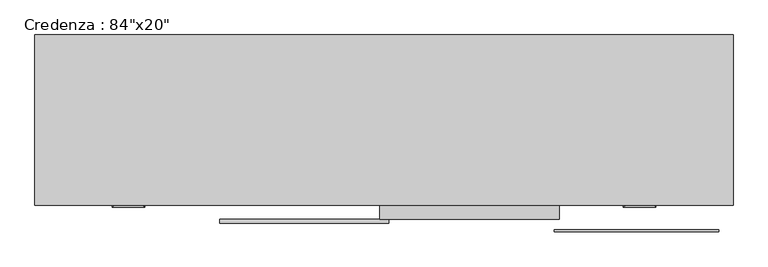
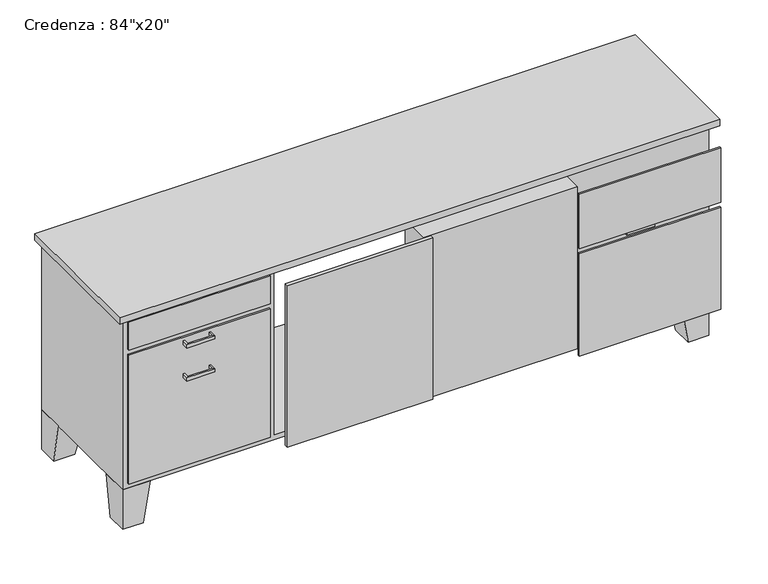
"""IFC4 building model written with IfcOpenShell, lengths in millimetres: furniture geometry."""

import ifcopenshell
import ifcopenshell.guid

model = None  # the IFC model being written
_history = None  # IfcOwnerHistory: only IFC2X3 demands one
_inside = {}  # id of a spatial element -> (the spatial element, [elements in it])
_under = {}  # id of a project, library or spatial element -> (it, [spatial elements below it])
_declared = {}  # id of a project -> (the project, [libraries it declares])
_typed = {}  # id of a type object -> (the type object, [elements of that type])
_made_of = {}  # id of a material, layer set ... -> (it, [elements and type objects made of it])


def new_model(schema):
    """Start an empty IFC model of exactly this schema.

    Asked for "IFC4X3", IfcOpenShell would pick the latest addendum, in which some entities
    have other attributes; the version numbers below select the first issue.
    IFC2X3 requires an IfcOwnerHistory on every rooted entity: one is made here for all.
    """
    global model, _history
    if schema == "IFC4X3":
        model = ifcopenshell.file(schema_version=(4, 3, 0, 0))
    else:
        model = ifcopenshell.file(schema=schema)
    _inside.clear()
    _under.clear()
    _declared.clear()
    _typed.clear()
    _made_of.clear()
    _history = None
    if model.schema == "IFC2X3":
        org = make("IfcOrganization", Name="unknown")
        user = make(
            "IfcPersonAndOrganization",
            ThePerson=make("IfcPerson", FamilyName="unknown"),
            TheOrganization=org,
        )
        app = make(
            "IfcApplication",
            ApplicationDeveloper=org,
            Version="unknown",
            ApplicationFullName="unknown",
            ApplicationIdentifier="unknown",
        )
        _history = make(
            "IfcOwnerHistory",
            OwningUser=user,
            OwningApplication=app,
            ChangeAction="ADDED",
            CreationDate=0,
        )
    return model


def make(cls, **values):
    """One entity of the class cls with the attributes given. An attribute that is None is left unset."""
    return model.create_entity(
        cls, **{name: value for name, value in values.items() if value is not None}
    )


def rooted(cls, **values):
    """An entity with a GlobalId (a new one), such as an element, a storey or a relation."""
    return make(cls, GlobalId=ifcopenshell.guid.new(), OwnerHistory=_history, **values)


def si_unit(unit_type, name, prefix=None):
    """IfcSIUnit, for example si_unit("LENGTHUNIT", "METRE", prefix="MILLI")."""
    return make("IfcSIUnit", UnitType=unit_type, Prefix=prefix, Name=name)


def assignment(units):
    """IfcUnitAssignment: the units of a project."""
    return None if units is None else make("IfcUnitAssignment", Units=units)


def point(xyz):
    """IfcCartesianPoint."""
    return None if xyz is None else make("IfcCartesianPoint", Coordinates=xyz)


def direction(xyz):
    """IfcDirection."""
    return None if xyz is None else make("IfcDirection", DirectionRatios=xyz)


def frame(location, z_axis=None, x_axis=None):
    """IfcAxis2Placement3D, a coordinate frame: its origin and axes. An axis left out is left unset."""
    return make(
        "IfcAxis2Placement3D",
        Location=point(location),
        Axis=direction(z_axis),
        RefDirection=direction(x_axis),
    )


def origin():
    """The frame at (0, 0, 0) with its axes left unset."""
    return frame((0.0, 0.0, 0.0))


def place(relative_to, where):
    """IfcLocalPlacement: puts the frame where relative to a parent placement (None: the world)."""
    return make(
        "IfcLocalPlacement", PlacementRelTo=relative_to, RelativePlacement=where
    )


def context(
    kind, dimensions, precision=None, world=None, true_north=None, identifier=None
):
    """IfcGeometricRepresentationContext, for example the 3D "Model" context."""
    return make(
        "IfcGeometricRepresentationContext",
        ContextIdentifier=identifier,
        ContextType=kind,
        CoordinateSpaceDimension=dimensions,
        Precision=precision,
        WorldCoordinateSystem=world,
        TrueNorth=true_north,
    )


def project(units=None, contexts=None):
    """IfcProject with its units and contexts."""
    return rooted(
        "IfcProject",
        Name="project",
        RepresentationContexts=contexts,
        UnitsInContext=assignment(units),
    )


def spatial(cls, under=None, at=None, **own):
    """A site, building, storey or space (cls), placed at a placement, below another one or the project."""
    s = rooted(cls, ObjectPlacement=at, **own)
    if under is not None:
        _under.setdefault(under.id(), (under, []))[1].append(s)
    return s


def polyline(points):
    """IfcPolyline through the points."""
    return make("IfcPolyline", Points=[point(p) for p in points])


def outline(outer, holes=None, kind="AREA"):
    """IfcArbitraryClosedProfileDef: a profile drawn as a closed curve; with holes, ...WithVoids."""
    if holes is None:
        return make("IfcArbitraryClosedProfileDef", ProfileType=kind, OuterCurve=outer)
    return make(
        "IfcArbitraryProfileDefWithVoids",
        ProfileType=kind,
        OuterCurve=outer,
        InnerCurves=holes,
    )


def extrude(swept, where, along, depth):
    """IfcExtrudedAreaSolid: the profile swept, set in the frame where, extruded along a direction by depth."""
    return make(
        "IfcExtrudedAreaSolid",
        SweptArea=swept,
        Position=where,
        ExtrudedDirection=direction(along),
        Depth=depth,
    )


def faces_of(points, faces, orient=None, outer=None):
    """IfcFace entities. A face is a list of loops; a loop is a list of indices into points, from 0.

    orient and outer hold one flag for each loop. By default every Orientation is true, the
    first loop of a face is its IfcFaceOuterBound and the others are IfcFaceBound.
    """
    made = []
    for i, loops in enumerate(faces):
        bounds = []
        for j, loop in enumerate(loops):
            is_outer = j == 0 if outer is None else outer[i][j]
            bounds.append(
                make(
                    "IfcFaceOuterBound" if is_outer else "IfcFaceBound",
                    Bound=make("IfcPolyLoop", Polygon=[points[k] for k in loop]),
                    Orientation=True if orient is None else orient[i][j],
                )
            )
        made.append(make("IfcFace", Bounds=bounds))
    return made


def faceted_brep(points, faces, orient=None, outer=None, voids=None):
    """IfcFacetedBrep: a solid bounded by flat faces; with voids (closed shells), ...WithVoids."""
    shared = [point(p) for p in points]
    hull = make("IfcClosedShell", CfsFaces=faces_of(shared, faces, orient, outer))
    if voids is None:
        return make("IfcFacetedBrep", Outer=hull)
    return make(
        "IfcFacetedBrepWithVoids",
        Outer=hull,
        Voids=[
            make(cls, CfsFaces=faces_of(shared, fs, o, b)) for cls, fs, o, b in voids
        ],
    )


def shape(context_of_items, identifier, shape_type, items):
    """IfcShapeRepresentation: the items that make up one representation, for example the "Body"."""
    return make(
        "IfcShapeRepresentation",
        ContextOfItems=context_of_items,
        RepresentationIdentifier=identifier,
        RepresentationType=shape_type,
        Items=items,
    )


def source(mapping_origin, context_of_items, identifier, shape_type, items):
    """IfcRepresentationMap: a shape defined once, which mapped items show again and again."""
    return make(
        "IfcRepresentationMap",
        MappingOrigin=mapping_origin,
        MappedRepresentation=shape(context_of_items, identifier, shape_type, items),
    )


def transform(
    local_origin,
    x_axis=None,
    y_axis=None,
    z_axis=None,
    scale=None,
    scale2=None,
    scale3=None,
    uniform=True,
):
    """IfcCartesianTransformationOperator3D, or its non-uniform kind. x_axis, y_axis, z_axis: its Axis1, 2, 3."""
    if uniform:
        return make(
            "IfcCartesianTransformationOperator3D",
            Axis1=direction(x_axis),
            Axis2=direction(y_axis),
            LocalOrigin=point(local_origin),
            Scale=scale,
            Axis3=direction(z_axis),
        )
    return make(
        "IfcCartesianTransformationOperator3DnonUniform",
        Axis1=direction(x_axis),
        Axis2=direction(y_axis),
        LocalOrigin=point(local_origin),
        Scale=scale,
        Axis3=direction(z_axis),
        Scale2=scale2,
        Scale3=scale3,
    )


def mapped(mapping_source, mapping_target):
    """IfcMappedItem: shows the shape of a source again, moved by a transform."""
    return make(
        "IfcMappedItem", MappingSource=mapping_source, MappingTarget=mapping_target
    )


def made_of(thing, what):
    """Note that an element or type object is made of a material, layer set ...; save() writes the relation."""
    if what is not None:
        _made_of.setdefault(what.id(), (what, []))[1].append(thing)
    return thing


def element(
    cls,
    number,
    at=None,
    inside=None,
    cuts=None,
    type_object=None,
    material=None,
    context=None,
    identifier="Body",
    shape_type=None,
    held_by="IfcProductDefinitionShape",
    body=None,
    shapes=None,
    **own,
):
    """One element of the class cls, such as IfcWall. Its Tag is "e" and its number.

    at: its placement. inside: the storey or other place that contains it. cuts: it is an
    opening in that element (IfcRelVoidsElement). A single representation is given by context,
    identifier, shape_type and body (its items); several are given by shapes. held_by: the class
    of the entity that holds the representations. save() writes the other relations.
    """
    e = rooted(cls, Tag="e%d" % number, ObjectPlacement=at, **own)
    if body is not None:
        shapes = [shape(context, identifier, shape_type, body)]
    if shapes is not None:
        e.Representation = make(held_by, Representations=shapes)
    if inside is not None:
        _inside.setdefault(inside.id(), (inside, []))[1].append(e)
    if cuts is not None:
        rooted(
            "IfcRelVoidsElement", RelatingBuildingElement=cuts, RelatedOpeningElement=e
        )
    if type_object is not None:
        _typed.setdefault(type_object.id(), (type_object, []))[1].append(e)
    return made_of(e, material)


def aggregate(whole, parts):
    """IfcRelAggregates: a whole, such as a stair, and the parts it consists of."""
    return rooted("IfcRelAggregates", RelatingObject=whole, RelatedObjects=parts)


def save(model, path):
    """Write the relations noted so far, then the file.

    IfcRelAggregates (storeys below a building ...), IfcRelContainedInSpatialStructure (elements
    in a storey), IfcRelDefinesByType, IfcRelAssociatesMaterial and IfcRelDeclares: one each for
    every whole, place, type object, material and project.
    """
    for whole, parts in _under.values():
        aggregate(whole, parts)
    for where, things in _inside.values():
        rooted(
            "IfcRelContainedInSpatialStructure",
            RelatedElements=things,
            RelatingStructure=where,
        )
    for kind, things in _typed.values():
        rooted("IfcRelDefinesByType", RelatedObjects=things, RelatingType=kind)
    for what, things in _made_of.values():
        rooted("IfcRelAssociatesMaterial", RelatedObjects=things, RelatingMaterial=what)
    for by, libraries in _declared.values():
        rooted("IfcRelDeclares", RelatingContext=by, RelatedDefinitions=libraries)
    model.write(path)


def furniture_6dfb0ca2(model_context):
    return source(origin(), model_context, "Body", "SolidModel", [
        extrude(outline(polyline([(607.9023176, -318.0714583), (46.8442623, -318.0714583), (46.8442623, -203.7714583), (607.9023176, -203.7714583), (607.9023176, -318.0714583)])), frame((0.0, 0.0, 171.45), z_axis=(0.0, 0.0, 1.0), x_axis=(1.0, 0.0, 0.0)), (0.0, 0.0, 1.0), 622.3),
        extrude(outline(polyline([(73.6254475, -330.7714583), (-454.8057377, -330.7714583), (-454.8057377, -318.0714583), (73.6254475, -318.0714583), (73.6254475, -330.7714583)])), frame((0.0, 0.0, 171.45), z_axis=(0.0, 0.0, 1.0), x_axis=(1.0, 0.0, 0.0)), (0.0, 0.0, 1.0), 622.3),
        faceted_brep([(1024.7442623, 258.5803279, 152.4), (1024.7442623, 156.9803279, 152.4), (1126.3442623, 156.9803279, 152.4), (1126.3442623, 258.5803279, 152.4), (1050.1442623, 258.5803279, 0.0), (1126.3442623, 258.5803279, 0.0), (1126.3442623, 182.3803279, 0.0), (1050.1442623, 182.3803279, 0.0)], [[[0, 1, 2, 3]], [[4, 5, 6, 7]], [[4, 7, 1, 0]], [[7, 6, 2, 1]], [[6, 5, 3, 2]], [[5, 4, 0, 3]]]),
        extrude(outline(polyline([(1107.2942623, -357.3696721), (592.9442623, -357.3696721), (592.9442623, -351.0196721), (1107.2942623, -351.0196721), (1107.2942623, -357.3696721)])), frame((0.0, 0.0, 584.2), z_axis=(0.0, 0.0, 1.0), x_axis=(1.0, 0.0, 0.0)), (0.0, 0.0, 1.0), 209.55),
        extrude(outline(polyline([(1107.2942623, -357.3696721), (592.9442623, -357.3696721), (592.9442623, -351.0196721), (1107.2942623, -351.0196721), (1107.2942623, -357.3696721)])), frame((0.0, 0.0, 171.45), z_axis=(0.0, 0.0, 1.0), x_axis=(1.0, 0.0, 0.0)), (0.0, 0.0, 1.0), 393.7),
        extrude(outline(polyline([(-473.8557377, -255.7696721), (-988.2057377, -255.7696721), (-988.2057377, -249.4196721), (-473.8557377, -249.4196721), (-473.8557377, -255.7696721)])), frame((0.0, 0.0, 685.8), z_axis=(0.0, 0.0, 1.0), x_axis=(1.0, 0.0, 0.0)), (0.0, 0.0, 1.0), 107.95),
        extrude(outline(polyline([(-473.8557377, -255.7696721), (-988.2057377, -255.7696721), (-988.2057377, -249.4196721), (-473.8557377, -249.4196721), (-473.8557377, -255.7696721)])), frame((0.0, 0.0, 171.45), z_axis=(0.0, 0.0, 1.0), x_axis=(1.0, 0.0, 0.0)), (0.0, 0.0, 1.0), 495.3),
        faceted_brep([(-905.6557377, -249.4196721, 152.4), (-905.6557377, -147.8196721, 152.4), (-1007.2557377, -147.8196721, 152.4), (-1007.2557377, -249.4196721, 152.4), (-931.0557377, -249.4196721, 0.0), (-1007.2557377, -249.4196721, 0.0), (-1007.2557377, -173.2196721, 0.0), (-931.0557377, -173.2196721, 0.0)], [[[0, 1, 2, 3]], [[4, 5, 6, 7]], [[4, 7, 1, 0]], [[7, 6, 2, 1]], [[6, 5, 3, 2]], [[5, 4, 0, 3]]]),
        faceted_brep([(-905.6557377, 258.5803279, 152.4), (-1007.2557377, 258.5803279, 152.4), (-1007.2557377, 156.9803279, 152.4), (-905.6557377, 156.9803279, 152.4), (-931.0557377, 258.5803279, 0.0), (-931.0557377, 182.3803279, 0.0), (-1007.2557377, 182.3803279, 0.0), (-1007.2557377, 258.5803279, 0.0)], [[[0, 1, 2, 3]], [[4, 5, 6, 7]], [[4, 7, 1, 0]], [[7, 6, 2, 1]], [[6, 5, 3, 2]], [[5, 4, 0, 3]]]),
        faceted_brep([(1024.7442623, -249.4196721, 152.4), (1126.3442623, -249.4196721, 152.4), (1126.3442623, -147.8196721, 152.4), (1024.7442623, -147.8196721, 152.4), (1050.1442623, -249.4196721, 0.0), (1050.1442623, -173.2196721, 0.0), (1126.3442623, -173.2196721, 0.0), (1126.3442623, -249.4196721, 0.0)], [[[0, 1, 2, 3]], [[4, 5, 6, 7]], [[4, 7, 1, 0]], [[7, 6, 2, 1]], [[6, 5, 3, 2]], [[5, 4, 0, 3]]]),
        extrude(outline(polyline([(812.8, 1126.3442623), (812.8, -1007.2557377), (152.4, -1007.2557377), (152.4, 1126.3442623), (812.8, 1126.3442623)]), holes=[polyline([(793.75, -454.8057377), (793.75, 573.8942623), (171.45, 573.8942623), (171.45, -454.8057377), (793.75, -454.8057377)])]), frame((0.0, -249.4196721, 0.0), z_axis=(0.0, 1.0, 0.0), x_axis=(0.0, 0.0, 1.0)), (0.0, 0.0, 1.0), 508.0),
        extrude(outline(polyline([(1151.7442623, 258.5803279), (1151.7442623, -274.8196721), (-1032.6557377, -274.8196721), (-1032.6557377, 258.5803279), (1151.7442623, 258.5803279)])), frame((0.0, 0.0, 812.8), z_axis=(0.0, 0.0, 1.0), x_axis=(1.0, 0.0, 0.0)), (0.0, 0.0, 1.0), 25.4),
        faceted_brep([(-785.0057377, -255.7696721, 527.05), (-785.0057377, -255.7696721, 514.35), (-791.3557377, -255.7696721, 514.35), (-791.3557377, -255.7696721, 527.05), (-785.0057377, -274.8196721, 527.05), (-785.0057377, -274.8196721, 514.35), (-791.3557377, -281.1696721, 514.35), (-791.3557377, -281.1696721, 527.05), (-696.1057377, -274.8196721, 527.05), (-696.1057377, -274.8196721, 514.35), (-689.7557377, -281.1696721, 514.35), (-689.7557377, -281.1696721, 527.05), (-696.1057377, -255.7696721, 527.05), (-689.7557377, -255.7696721, 527.05), (-689.7557377, -255.7696721, 514.35), (-696.1057377, -255.7696721, 514.35)], [[[0, 1, 2, 3]], [[1, 0, 4, 5]], [[2, 1, 5, 6]], [[3, 2, 6, 7]], [[0, 3, 7, 4]], [[5, 4, 8, 9]], [[6, 5, 9, 10]], [[7, 6, 10, 11]], [[4, 7, 11, 8]], [[12, 13, 14, 15]], [[9, 8, 12, 15]], [[10, 9, 15, 14]], [[11, 10, 14, 13]], [[8, 11, 13, 12]]]),
        faceted_brep([(-785.0057377, -255.7696721, 654.05), (-785.0057377, -255.7696721, 641.35), (-791.3557377, -255.7696721, 641.35), (-791.3557377, -255.7696721, 654.05), (-785.0057377, -274.8196721, 654.05), (-785.0057377, -274.8196721, 641.35), (-791.3557377, -281.1696721, 641.35), (-791.3557377, -281.1696721, 654.05), (-696.1057377, -274.8196721, 654.05), (-696.1057377, -274.8196721, 641.35), (-689.7557377, -281.1696721, 641.35), (-689.7557377, -281.1696721, 654.05), (-696.1057377, -255.7696721, 654.05), (-689.7557377, -255.7696721, 654.05), (-689.7557377, -255.7696721, 641.35), (-696.1057377, -255.7696721, 641.35)], [[[0, 1, 2, 3]], [[1, 0, 4, 5]], [[2, 1, 5, 6]], [[3, 2, 6, 7]], [[0, 3, 7, 4]], [[5, 4, 8, 9]], [[6, 5, 9, 10]], [[7, 6, 10, 11]], [[4, 7, 11, 8]], [[12, 13, 14, 15]], [[9, 8, 12, 15]], [[10, 9, 15, 14]], [[11, 10, 14, 13]], [[8, 11, 13, 12]]]),
        faceted_brep([(815.1942623, -255.7696721, 654.1373112), (815.1942623, -255.7696721, 641.4373112), (808.8442623, -255.7696721, 641.4373112), (808.8442623, -255.7696721, 654.1373112), (815.1942623, -274.8196721, 654.1373112), (815.1942623, -274.8196721, 641.4373112), (808.8442623, -281.1696721, 641.4373112), (808.8442623, -281.1696721, 654.1373112), (904.0942623, -274.8196721, 654.1373112), (904.0942623, -274.8196721, 641.4373112), (910.4442623, -281.1696721, 641.4373112), (910.4442623, -281.1696721, 654.1373112), (904.0942623, -255.7696721, 654.1373112), (910.4442623, -255.7696721, 654.1373112), (910.4442623, -255.7696721, 641.4373112), (904.0942623, -255.7696721, 641.4373112)], [[[0, 1, 2, 3]], [[1, 0, 4, 5]], [[2, 1, 5, 6]], [[3, 2, 6, 7]], [[0, 3, 7, 4]], [[5, 4, 8, 9]], [[6, 5, 9, 10]], [[7, 6, 10, 11]], [[4, 7, 11, 8]], [[12, 13, 14, 15]], [[9, 8, 12, 15]], [[10, 9, 15, 14]], [[11, 10, 14, 13]], [[8, 11, 13, 12]]]),
        faceted_brep([(815.1942623, -255.7696721, 527.05), (815.1942623, -255.7696721, 514.35), (808.8442623, -255.7696721, 514.35), (808.8442623, -255.7696721, 527.05), (815.1942623, -274.8196721, 527.05), (815.1942623, -274.8196721, 514.35), (808.8442623, -281.1696721, 514.35), (808.8442623, -281.1696721, 527.05), (904.0942623, -274.8196721, 527.05), (904.0942623, -274.8196721, 514.35), (910.4442623, -281.1696721, 514.35), (910.4442623, -281.1696721, 527.05), (904.0942623, -255.7696721, 527.05), (910.4442623, -255.7696721, 527.05), (910.4442623, -255.7696721, 514.35), (904.0942623, -255.7696721, 514.35)], [[[0, 1, 2, 3]], [[1, 0, 4, 5]], [[2, 1, 5, 6]], [[3, 2, 6, 7]], [[0, 3, 7, 4]], [[5, 4, 8, 9]], [[6, 5, 9, 10]], [[7, 6, 10, 11]], [[4, 7, 11, 8]], [[12, 13, 14, 15]], [[9, 8, 12, 15]], [[10, 9, 15, 14]], [[11, 10, 14, 13]], [[8, 11, 13, 12]]]),
    ])


if __name__ == "__main__":
    model = new_model("IFC4")
    model_context = context("Model", 3, world=origin())
    ifc_project = project(units=[si_unit("LENGTHUNIT", "METRE", prefix="MILLI")], contexts=[model_context])
    site = spatial("IfcSite", under=ifc_project)
    building = spatial("IfcBuilding", under=site)
    placement = place(None, origin())
    furniture_shape = furniture_6dfb0ca2(model_context)
    element("IfcFurniture", 1, ObjectType="Credenza : 84\"x20\"", at=placement, inside=building, context=model_context, shape_type="MappedRepresentation", body=[
        mapped(furniture_shape, transform((0.0, 0.0, 0.0), x_axis=(1.0, 0.0, 0.0), y_axis=(0.0, 1.0, 0.0), z_axis=(0.0, 0.0, 1.0))),
    ])
    save(model, "model.ifc")
